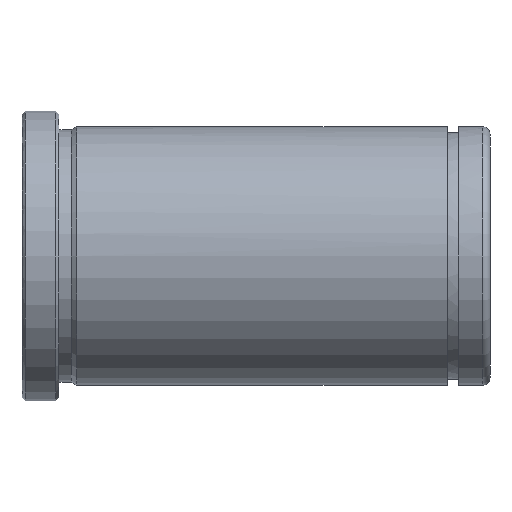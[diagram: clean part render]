
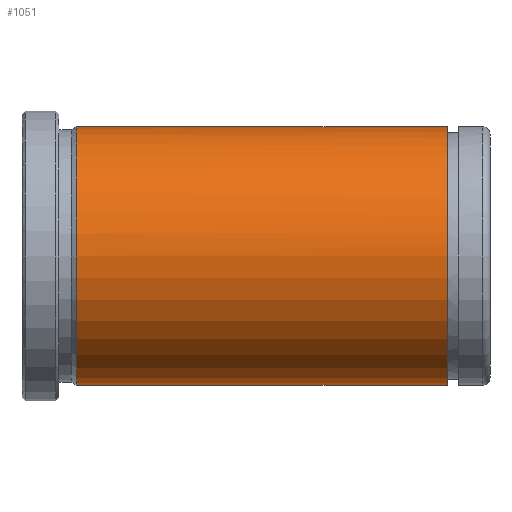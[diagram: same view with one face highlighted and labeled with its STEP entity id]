
A CAD part, front view. The second image highlights one B-rep face of the part: STEP entity #1051.
In plain terms, the highlighted cylindrical face has radius 21 mm (diameter 42 mm), a partial arc.
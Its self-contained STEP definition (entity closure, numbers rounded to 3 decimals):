
#851=CARTESIAN_POINT('Vertex',(8.866,0.,-21.)) ;
#858=CARTESIAN_POINT('Vertex',(8.866,0.,21.)) ;
#887=CARTESIAN_POINT('Axis2P3D Location',(8.866,0.,0.)) ;
#891=CARTESIAN_POINT('Vertex',(8.866,-21.,0.)) ;
#894=CARTESIAN_POINT('Axis2P3D Location',(8.866,0.,0.)) ;
#985=CARTESIAN_POINT('Line Origine',(152.,0.,21.)) ;
#989=CARTESIAN_POINT('Vertex',(69.05,0.,21.)) ;
#1006=CARTESIAN_POINT('Vertex',(69.05,0.,-21.)) ;
#1009=CARTESIAN_POINT('Line Origine',(152.,0.,-21.)) ;
#1023=CARTESIAN_POINT('Axis2P3D Location',(152.,0.,0.)) ;
#1028=CARTESIAN_POINT('Axis2P3D Location',(69.05,0.,0.)) ;
#1032=CARTESIAN_POINT('Vertex',(69.05,-21.,0.)) ;
#1036=CARTESIAN_POINT('Control Point',(69.05,0.,21.)) ;
#1037=CARTESIAN_POINT('Control Point',(69.05,-6.597,21.)) ;
#1038=CARTESIAN_POINT('Control Point',(69.05,-13.201,18.417)) ;
#1039=CARTESIAN_POINT('Control Point',(69.05,-18.417,13.201)) ;
#1040=CARTESIAN_POINT('Control Point',(69.05,-21.,6.597)) ;
#1041=CARTESIAN_POINT('Control Point',(69.05,-21.,0.)) ;
#888=DIRECTION('Axis2P3D Direction',(1.,0.,-0.)) ;
#895=DIRECTION('Axis2P3D Direction',(1.,0.,-0.)) ;
#986=DIRECTION('Vector Direction',(-1.,0.,0.)) ;
#1010=DIRECTION('Vector Direction',(-1.,0.,0.)) ;
#1024=DIRECTION('Axis2P3D Direction',(-1.,-0.,-0.)) ;
#1025=DIRECTION('Axis2P3D XDirection',(0.,0.,-1.)) ;
#1029=DIRECTION('Axis2P3D Direction',(-1.,-0.,-0.)) ;
#889=AXIS2_PLACEMENT_3D('Circle Axis2P3D',#887,#888,$) ;
#896=AXIS2_PLACEMENT_3D('Circle Axis2P3D',#894,#895,$) ;
#1026=AXIS2_PLACEMENT_3D('Cylinder Axis2P3D',#1023,#1024,#1025) ;
#1030=AXIS2_PLACEMENT_3D('Circle Axis2P3D',#1028,#1029,$) ;
#1044=ORIENTED_EDGE('',*,*,#1013,.T.) ;
#1045=ORIENTED_EDGE('',*,*,#1034,.F.) ;
#1046=ORIENTED_EDGE('',*,*,#1042,.F.) ;
#1047=ORIENTED_EDGE('',*,*,#991,.T.) ;
#1048=ORIENTED_EDGE('',*,*,#898,.T.) ;
#1049=ORIENTED_EDGE('',*,*,#893,.T.) ;
#987=VECTOR('Line Direction',#986,1.) ;
#1011=VECTOR('Line Direction',#1010,1.) ;
#1051=ADVANCED_FACE('553-30X76',(#1050),#1027,.T.) ;
#1035=B_SPLINE_CURVE_WITH_KNOTS('',5,(#1036,#1037,#1038,#1039,#1040,#1041),.UNSPECIFIED.,.F.,.U.,(6,6),(-16.493,16.493),.UNSPECIFIED.) ;
#890=CIRCLE('generated circle',#889,21.) ;
#897=CIRCLE('generated circle',#896,21.) ;
#1031=CIRCLE('generated circle',#1030,21.) ;
#1027=CYLINDRICAL_SURFACE('generated cylinder',#1026,21.) ;
#893=EDGE_CURVE('',#892,#852,#890,.T.) ;
#898=EDGE_CURVE('',#859,#892,#897,.T.) ;
#991=EDGE_CURVE('',#990,#859,#988,.T.) ;
#1013=EDGE_CURVE('',#852,#1007,#1012,.F.) ;
#1034=EDGE_CURVE('',#1033,#1007,#1031,.F.) ;
#1042=EDGE_CURVE('',#990,#1033,#1035,.T.) ;
#1043=EDGE_LOOP('',(#1044,#1045,#1046,#1047,#1048,#1049)) ;
#1050=FACE_OUTER_BOUND('',#1043,.T.) ;
#988=LINE('Line',#985,#987) ;
#1012=LINE('Line',#1009,#1011) ;
#852=VERTEX_POINT('',#851) ;
#859=VERTEX_POINT('',#858) ;
#892=VERTEX_POINT('',#891) ;
#990=VERTEX_POINT('',#989) ;
#1007=VERTEX_POINT('',#1006) ;
#1033=VERTEX_POINT('',#1032) ;
